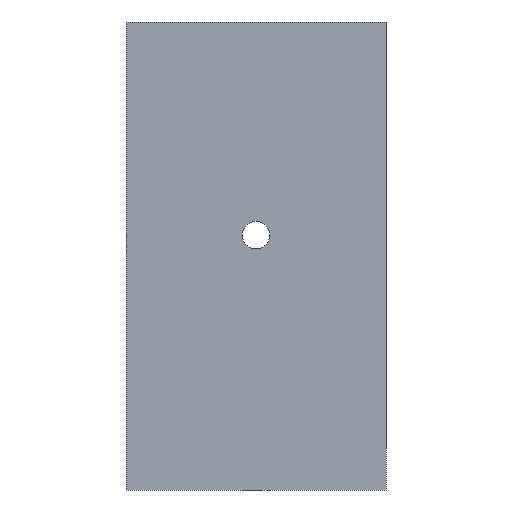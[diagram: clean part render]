
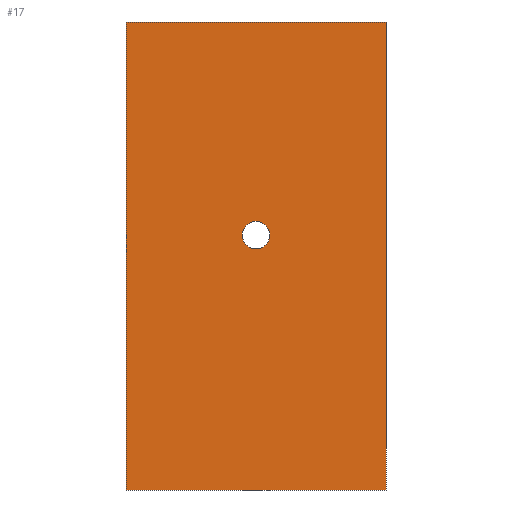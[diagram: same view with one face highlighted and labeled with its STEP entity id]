
A CAD part, left-side view. The second image highlights one B-rep face of the part: STEP entity #17.
In plain terms, the highlighted planar face has unit normal (-1, 0, 0).
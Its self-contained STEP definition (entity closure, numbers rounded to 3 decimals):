
#17 = ADVANCED_FACE('',(#18,#137),#32,.F.);
#18 = FACE_BOUND('',#19,.F.);
#19 = EDGE_LOOP('',(#20,#55,#83,#111));
#20 = ORIENTED_EDGE('',*,*,#21,.F.);
#21 = EDGE_CURVE('',#22,#24,#26,.T.);
#22 = VERTEX_POINT('',#23);
#23 = CARTESIAN_POINT('',(0.,-25.,0.));
#24 = VERTEX_POINT('',#25);
#25 = CARTESIAN_POINT('',(0.,-25.,90.));
#26 = SURFACE_CURVE('',#27,(#31,#43),.PCURVE_S1.);
#27 = LINE('',#28,#29);
#28 = CARTESIAN_POINT('',(0.,-25.,0.));
#29 = VECTOR('',#30,1.);
#30 = DIRECTION('',(0.,0.,1.));
#31 = PCURVE('',#32,#37);
#32 = PLANE('',#33);
#33 = AXIS2_PLACEMENT_3D('',#34,#35,#36);
#34 = CARTESIAN_POINT('',(0.,-25.,0.));
#35 = DIRECTION('',(1.,0.,0.));
#36 = DIRECTION('',(0.,0.,1.));
#37 = DEFINITIONAL_REPRESENTATION('',(#38),#42);
#38 = LINE('',#39,#40);
#39 = CARTESIAN_POINT('',(0.,0.));
#40 = VECTOR('',#41,1.);
#41 = DIRECTION('',(1.,0.));
#42 = ( GEOMETRIC_REPRESENTATION_CONTEXT(2) 
PARAMETRIC_REPRESENTATION_CONTEXT() REPRESENTATION_CONTEXT('2D SPACE',''
  ) );
#43 = PCURVE('',#44,#49);
#44 = PLANE('',#45);
#45 = AXIS2_PLACEMENT_3D('',#46,#47,#48);
#46 = CARTESIAN_POINT('',(0.,-25.,0.));
#47 = DIRECTION('',(0.,1.,0.));
#48 = DIRECTION('',(0.,0.,1.));
#49 = DEFINITIONAL_REPRESENTATION('',(#50),#54);
#50 = LINE('',#51,#52);
#51 = CARTESIAN_POINT('',(0.,0.));
#52 = VECTOR('',#53,1.);
#53 = DIRECTION('',(1.,0.));
#54 = ( GEOMETRIC_REPRESENTATION_CONTEXT(2) 
PARAMETRIC_REPRESENTATION_CONTEXT() REPRESENTATION_CONTEXT('2D SPACE',''
  ) );
#55 = ORIENTED_EDGE('',*,*,#56,.T.);
#56 = EDGE_CURVE('',#22,#57,#59,.T.);
#57 = VERTEX_POINT('',#58);
#58 = CARTESIAN_POINT('',(0.,25.,0.));
#59 = SURFACE_CURVE('',#60,(#64,#71),.PCURVE_S1.);
#60 = LINE('',#61,#62);
#61 = CARTESIAN_POINT('',(0.,-25.,0.));
#62 = VECTOR('',#63,1.);
#63 = DIRECTION('',(0.,1.,0.));
#64 = PCURVE('',#32,#65);
#65 = DEFINITIONAL_REPRESENTATION('',(#66),#70);
#66 = LINE('',#67,#68);
#67 = CARTESIAN_POINT('',(0.,0.));
#68 = VECTOR('',#69,1.);
#69 = DIRECTION('',(0.,-1.));
#70 = ( GEOMETRIC_REPRESENTATION_CONTEXT(2) 
PARAMETRIC_REPRESENTATION_CONTEXT() REPRESENTATION_CONTEXT('2D SPACE',''
  ) );
#71 = PCURVE('',#72,#77);
#72 = PLANE('',#73);
#73 = AXIS2_PLACEMENT_3D('',#74,#75,#76);
#74 = CARTESIAN_POINT('',(0.,-25.,0.));
#75 = DIRECTION('',(0.,0.,1.));
#76 = DIRECTION('',(1.,0.,0.));
#77 = DEFINITIONAL_REPRESENTATION('',(#78),#82);
#78 = LINE('',#79,#80);
#79 = CARTESIAN_POINT('',(0.,0.));
#80 = VECTOR('',#81,1.);
#81 = DIRECTION('',(0.,1.));
#82 = ( GEOMETRIC_REPRESENTATION_CONTEXT(2) 
PARAMETRIC_REPRESENTATION_CONTEXT() REPRESENTATION_CONTEXT('2D SPACE',''
  ) );
#83 = ORIENTED_EDGE('',*,*,#84,.F.);
#84 = EDGE_CURVE('',#85,#57,#87,.T.);
#85 = VERTEX_POINT('',#86);
#86 = CARTESIAN_POINT('',(0.,25.,90.));
#87 = SURFACE_CURVE('',#88,(#92,#99),.PCURVE_S1.);
#88 = LINE('',#89,#90);
#89 = CARTESIAN_POINT('',(0.,25.,90.));
#90 = VECTOR('',#91,1.);
#91 = DIRECTION('',(0.,0.,-1.));
#92 = PCURVE('',#32,#93);
#93 = DEFINITIONAL_REPRESENTATION('',(#94),#98);
#94 = LINE('',#95,#96);
#95 = CARTESIAN_POINT('',(90.,-50.));
#96 = VECTOR('',#97,1.);
#97 = DIRECTION('',(-1.,0.));
#98 = ( GEOMETRIC_REPRESENTATION_CONTEXT(2) 
PARAMETRIC_REPRESENTATION_CONTEXT() REPRESENTATION_CONTEXT('2D SPACE',''
  ) );
#99 = PCURVE('',#100,#105);
#100 = PLANE('',#101);
#101 = AXIS2_PLACEMENT_3D('',#102,#103,#104);
#102 = CARTESIAN_POINT('',(0.,25.,0.));
#103 = DIRECTION('',(0.,1.,0.));
#104 = DIRECTION('',(0.,0.,1.));
#105 = DEFINITIONAL_REPRESENTATION('',(#106),#110);
#106 = LINE('',#107,#108);
#107 = CARTESIAN_POINT('',(90.,0.));
#108 = VECTOR('',#109,1.);
#109 = DIRECTION('',(-1.,0.));
#110 = ( GEOMETRIC_REPRESENTATION_CONTEXT(2) 
PARAMETRIC_REPRESENTATION_CONTEXT() REPRESENTATION_CONTEXT('2D SPACE',''
  ) );
#111 = ORIENTED_EDGE('',*,*,#112,.F.);
#112 = EDGE_CURVE('',#24,#85,#113,.T.);
#113 = SURFACE_CURVE('',#114,(#118,#125),.PCURVE_S1.);
#114 = LINE('',#115,#116);
#115 = CARTESIAN_POINT('',(0.,-25.,90.));
#116 = VECTOR('',#117,1.);
#117 = DIRECTION('',(0.,1.,0.));
#118 = PCURVE('',#32,#119);
#119 = DEFINITIONAL_REPRESENTATION('',(#120),#124);
#120 = LINE('',#121,#122);
#121 = CARTESIAN_POINT('',(90.,0.));
#122 = VECTOR('',#123,1.);
#123 = DIRECTION('',(0.,-1.));
#124 = ( GEOMETRIC_REPRESENTATION_CONTEXT(2) 
PARAMETRIC_REPRESENTATION_CONTEXT() REPRESENTATION_CONTEXT('2D SPACE',''
  ) );
#125 = PCURVE('',#126,#131);
#126 = PLANE('',#127);
#127 = AXIS2_PLACEMENT_3D('',#128,#129,#130);
#128 = CARTESIAN_POINT('',(0.,-25.,90.));
#129 = DIRECTION('',(0.,0.,1.));
#130 = DIRECTION('',(1.,0.,0.));
#131 = DEFINITIONAL_REPRESENTATION('',(#132),#136);
#132 = LINE('',#133,#134);
#133 = CARTESIAN_POINT('',(0.,0.));
#134 = VECTOR('',#135,1.);
#135 = DIRECTION('',(0.,1.));
#136 = ( GEOMETRIC_REPRESENTATION_CONTEXT(2) 
PARAMETRIC_REPRESENTATION_CONTEXT() REPRESENTATION_CONTEXT('2D SPACE',''
  ) );
#137 = FACE_BOUND('',#138,.F.);
#138 = EDGE_LOOP('',(#139));
#139 = ORIENTED_EDGE('',*,*,#140,.F.);
#140 = EDGE_CURVE('',#141,#141,#143,.T.);
#141 = VERTEX_POINT('',#142);
#142 = CARTESIAN_POINT('',(-0.,2.65,49.));
#143 = SURFACE_CURVE('',#144,(#149,#156),.PCURVE_S1.);
#144 = CIRCLE('',#145,2.65);
#145 = AXIS2_PLACEMENT_3D('',#146,#147,#148);
#146 = CARTESIAN_POINT('',(0.,0.,49.));
#147 = DIRECTION('',(1.,0.,0.));
#148 = DIRECTION('',(0.,1.,0.));
#149 = PCURVE('',#32,#150);
#150 = DEFINITIONAL_REPRESENTATION('',(#151),#155);
#151 = CIRCLE('',#152,2.65);
#152 = AXIS2_PLACEMENT_2D('',#153,#154);
#153 = CARTESIAN_POINT('',(49.,-25.));
#154 = DIRECTION('',(0.,-1.));
#155 = ( GEOMETRIC_REPRESENTATION_CONTEXT(2) 
PARAMETRIC_REPRESENTATION_CONTEXT() REPRESENTATION_CONTEXT('2D SPACE',''
  ) );
#156 = PCURVE('',#157,#162);
#157 = CYLINDRICAL_SURFACE('',#158,2.65);
#158 = AXIS2_PLACEMENT_3D('',#159,#160,#161);
#159 = CARTESIAN_POINT('',(0.,0.,49.));
#160 = DIRECTION('',(1.,0.,0.));
#161 = DIRECTION('',(0.,1.,0.));
#162 = DEFINITIONAL_REPRESENTATION('',(#163),#167);
#163 = LINE('',#164,#165);
#164 = CARTESIAN_POINT('',(0.,0.));
#165 = VECTOR('',#166,1.);
#166 = DIRECTION('',(1.,0.));
#167 = ( GEOMETRIC_REPRESENTATION_CONTEXT(2) 
PARAMETRIC_REPRESENTATION_CONTEXT() REPRESENTATION_CONTEXT('2D SPACE',''
  ) );
